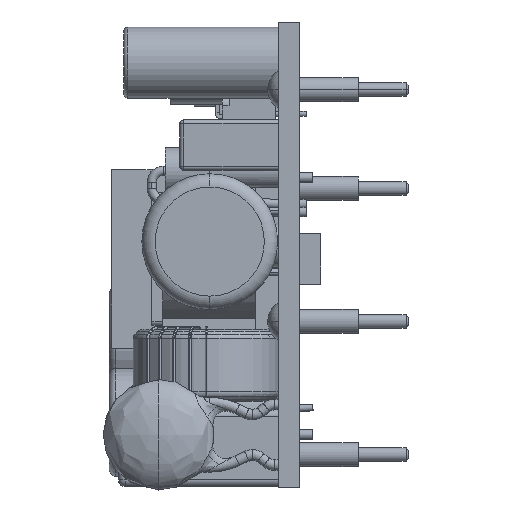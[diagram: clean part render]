
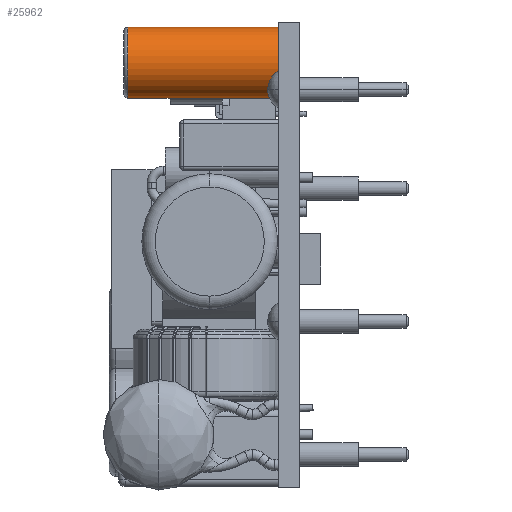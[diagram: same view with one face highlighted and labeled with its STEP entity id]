
A CAD part, left-side view. The second image highlights one B-rep face of the part: STEP entity #25962.
In plain terms, the highlighted cylindrical face has radius 2.675 mm (diameter 5.35 mm), a partial arc.
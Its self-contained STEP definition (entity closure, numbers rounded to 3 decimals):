
#8363 = DIRECTION ( 'NONE',  ( 0., 0., 1. ) ) ;
#8364 = DIRECTION ( 'NONE',  ( 0., -1., 0. ) ) ;
#8365 = CARTESIAN_POINT ( 'NONE',  ( 10.013, 11.3, -3.053 ) ) ;
#8366 = AXIS2_PLACEMENT_3D ( 'NONE', #8365, #8364, #8363 ) ;
#8367 = CIRCLE ( 'NONE', #8366, 2.675 ) ;
#8368 = DIRECTION ( 'NONE',  ( 0., 0., -1. ) ) ;
#8369 = DIRECTION ( 'NONE',  ( 0., -1., 0. ) ) ;
#8370 = AXIS2_PLACEMENT_3D ( 'NONE', #8372, #8369, #8368 ) ;
#8371 = CYLINDRICAL_SURFACE ( 'NONE', #8370, 2.675 ) ;
#8372 = CARTESIAN_POINT ( 'NONE',  ( 10.013, 11.6, -3.053 ) ) ;
#8373 = FACE_OUTER_BOUND ( 'NONE', #25966, .T. ) ;
#15669 = CARTESIAN_POINT ( 'NONE',  ( 10.013, 11.3, -0.378 ) ) ;
#15670 = CARTESIAN_POINT ( 'NONE',  ( 10.013, 11.3, -5.728 ) ) ;
#15969 = DIRECTION ( 'NONE',  ( 0., -1., 0. ) ) ;
#15971 = VECTOR ( 'NONE', #15969, 1000. ) ;
#15972 = CARTESIAN_POINT ( 'NONE',  ( 10.013, 11.6, -5.728 ) ) ;
#15974 = LINE ( 'NONE', #15972, #15971 ) ;
#16239 = CARTESIAN_POINT ( 'NONE',  ( 10.013, 0., -5.728 ) ) ;
#16267 = CARTESIAN_POINT ( 'NONE',  ( 10.013, 0., -0.378 ) ) ;
#16269 = DIRECTION ( 'NONE',  ( 0., -1., 0. ) ) ;
#16271 = VECTOR ( 'NONE', #16269, 1000. ) ;
#16272 = CARTESIAN_POINT ( 'NONE',  ( 10.013, 11.6, -0.378 ) ) ;
#16273 = LINE ( 'NONE', #16272, #16271 ) ;
#21420 = DIRECTION ( 'NONE',  ( 0., 0., -1. ) ) ;
#21422 = DIRECTION ( 'NONE',  ( 0., 1., 0. ) ) ;
#21424 = CARTESIAN_POINT ( 'NONE',  ( 10.013, 0., -3.053 ) ) ;
#21426 = AXIS2_PLACEMENT_3D ( 'NONE', #21424, #21422, #21420 ) ;
#21437 = CIRCLE ( 'NONE', #21426, 2.675 ) ;
#25962 = ADVANCED_FACE ( 'NONE', ( #8373 ), #8371, .T. ) ;
#25966 = EDGE_LOOP ( 'NONE', ( #25968, #25971, #25975, #25977 ) ) ;
#25968 = ORIENTED_EDGE ( 'NONE', *, *, #31655, .F. ) ;
#25971 = ORIENTED_EDGE ( 'NONE', *, *, #25973, .T. ) ;
#25973 = EDGE_CURVE ( 'NONE', #31474, #31472, #8367, .T. ) ;
#25975 = ORIENTED_EDGE ( 'NONE', *, *, #31583, .T. ) ;
#25977 = ORIENTED_EDGE ( 'NONE', *, *, #32940, .T. ) ;
#31472 = VERTEX_POINT ( 'NONE', #15670 ) ;
#31474 = VERTEX_POINT ( 'NONE', #15669 ) ;
#31583 = EDGE_CURVE ( 'NONE', #31472, #31662, #15974, .T. ) ;
#31655 = EDGE_CURVE ( 'NONE', #31474, #31656, #16273, .T. ) ;
#31656 = VERTEX_POINT ( 'NONE', #16267 ) ;
#31662 = VERTEX_POINT ( 'NONE', #16239 ) ;
#32940 = EDGE_CURVE ( 'NONE', #31662, #31656, #21437, .T. ) ;
